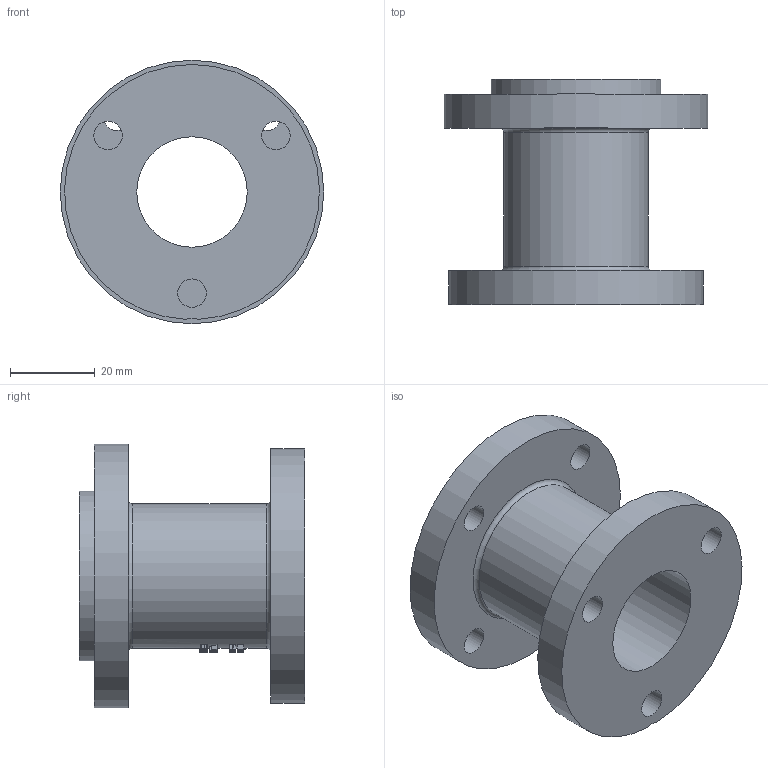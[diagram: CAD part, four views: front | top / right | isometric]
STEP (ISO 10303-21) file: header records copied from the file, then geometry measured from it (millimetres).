
FILE_DESCRIPTION(/* description */ (''),/* implementation_level */ '2;1');
FILE_NAME(/* name */ 'P:\Adapter\Adaptersätze für die Montage der ESK-Regulatoren\BO-Adapter.stp',/* time_stamp */ '2019-04-01T14:05:43+02:00',/* author */ ('neufeld'),/* organization */ (''),/* preprocessor_version */ 'ST-DEVELOPER v17',/* originating_system */ 'Autodesk Inventor 2019',/* authorisation */ '');
FILE_SCHEMA (('AUTOMOTIVE_DESIGN { 1 0 10303 214 3 1 1 }'));
Length unit declared in the file: millimetre
Products named in the file (1): BO_AG-Kunde
Bounding box: 62 x 53 x 62 mm (x, y, z)
Volume: 50060.4 mm3; surface area: 21060.9 mm2
Topology: 1 solids, 1 shells, 664 faces, 1844 edges, 1235 vertices
Faces by surface type: plane 407, bspline 190, cylinder 64, torus 2, cone 1
Full cylindrical faces by diameter (mm): 6.4 x4, 6.7 x3, 26 x1, 30 x1, 34 x1, 40 x1, 62 x1
Entity records: 27733 total; most frequent: CARTESIAN_POINT 11347, ORIENTED_EDGE 3688, DIRECTION 2999, EDGE_CURVE 1844, VERTEX_POINT 1235, AXIS2_PLACEMENT_3D 1060, LINE 879, VECTOR 879
